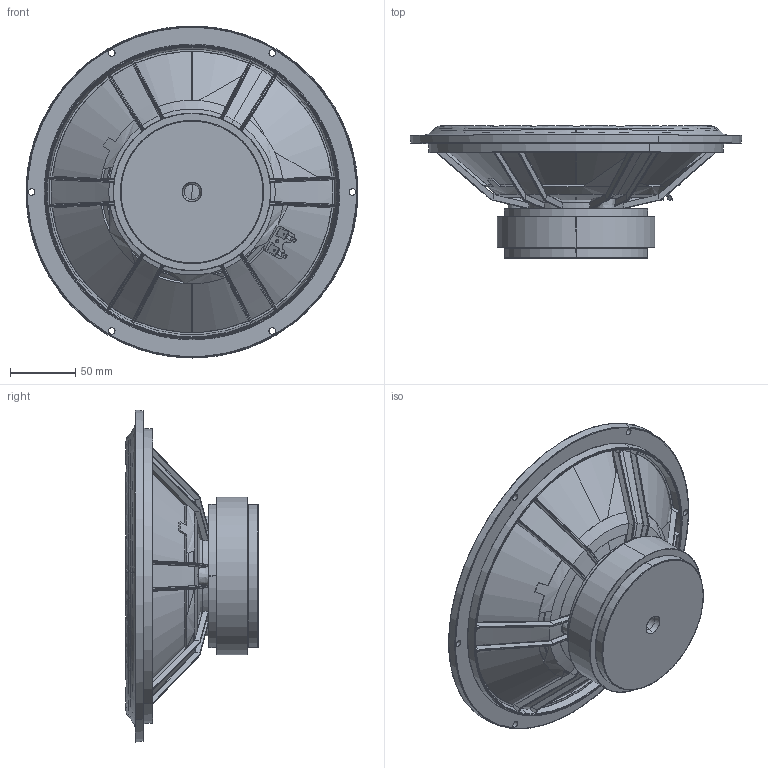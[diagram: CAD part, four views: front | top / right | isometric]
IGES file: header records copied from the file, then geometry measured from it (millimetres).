
Start section: SolidWorks IGES file using analytic representation for surfaces
Global section: file name: W:\TT\WEB 3D enheder\WEB 25W_8565-00\25W-8565-00.IGS; native system: SolidWorks 2019; preprocessor: SolidWorks 2019; author: mhn; date: 201020.104641; units: millimetre
Bounding box: 255 x 101.72 x 255 mm (x, y, z)
Surface area: 452923 mm2 (no closed solid volume)
Topology: 0 solids, 0 shells, 979 faces, 12582 edges, 12506 vertices
Faces by surface type: bspline 602, revolution 377
